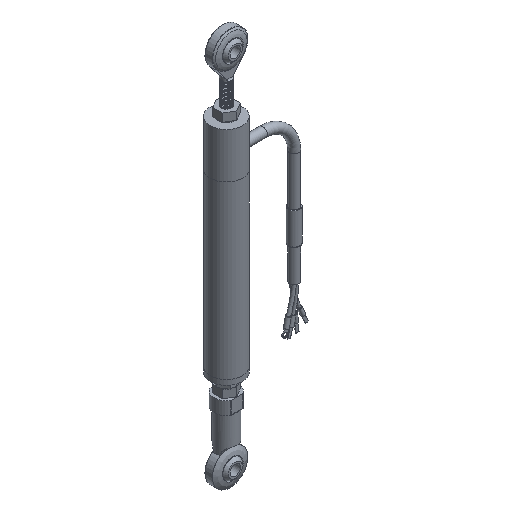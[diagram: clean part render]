
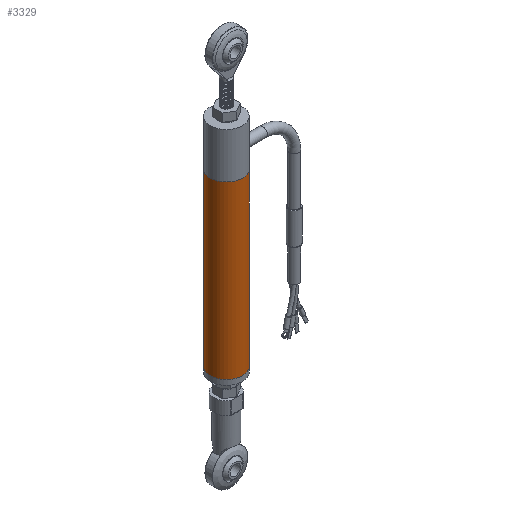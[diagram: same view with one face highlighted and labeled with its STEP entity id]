
A CAD part, isometric view. The second image highlights one B-rep face of the part: STEP entity #3329.
In plain terms, the highlighted cylindrical face has radius 6.35 mm (diameter 12.7 mm), a full revolution.
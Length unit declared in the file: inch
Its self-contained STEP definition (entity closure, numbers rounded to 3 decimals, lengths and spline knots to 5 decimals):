
#248=LINE('',#8165,#453);
#453=VECTOR('',#4234,0.25);
#633=CYLINDRICAL_SURFACE('',#3719,0.25);
#744=FACE_OUTER_BOUND('',#956,.T.);
#956=EDGE_LOOP('',(#2470,#2471,#2472,#2473,#2474));
#1140=CIRCLE('',#3711,0.25);
#1142=CIRCLE('',#3717,0.25);
#1143=CIRCLE('',#3718,0.25);
#1463=VERTEX_POINT('',#8108);
#1468=VERTEX_POINT('',#8159);
#1469=VERTEX_POINT('',#8161);
#1826=EDGE_CURVE('',#1463,#1463,#1140,.T.);
#1833=EDGE_CURVE('',#1469,#1468,#1142,.T.);
#1834=EDGE_CURVE('',#1468,#1469,#1143,.T.);
#1835=EDGE_CURVE('',#1463,#1469,#248,.T.);
#2470=ORIENTED_EDGE('',*,*,#1826,.F.);
#2471=ORIENTED_EDGE('',*,*,#1835,.T.);
#2472=ORIENTED_EDGE('',*,*,#1833,.T.);
#2473=ORIENTED_EDGE('',*,*,#1834,.T.);
#2474=ORIENTED_EDGE('',*,*,#1835,.F.);
#3329=ADVANCED_FACE('',(#744),#633,.T.);
#3711=AXIS2_PLACEMENT_3D('',#8110,#4214,#4215);
#3717=AXIS2_PLACEMENT_3D('',#8162,#4228,#4229);
#3718=AXIS2_PLACEMENT_3D('',#8163,#4230,#4231);
#3719=AXIS2_PLACEMENT_3D('',#8164,#4232,#4233);
#4214=DIRECTION('center_axis',(0.,0.,-1.));
#4215=DIRECTION('ref_axis',(-1.,0.,0.));
#4228=DIRECTION('center_axis',(0.,0.,-1.));
#4229=DIRECTION('ref_axis',(-1.,0.,0.));
#4230=DIRECTION('center_axis',(0.,0.,-1.));
#4231=DIRECTION('ref_axis',(-1.,0.,0.));
#4232=DIRECTION('center_axis',(0.,0.,-1.));
#4233=DIRECTION('ref_axis',(-1.,0.,0.));
#4234=DIRECTION('',(0.,0.,1.));
#8108=CARTESIAN_POINT('',(0.25,0.,-3.33858));
#8110=CARTESIAN_POINT('Origin',(0.,0.,-3.33858));
#8159=CARTESIAN_POINT('',(-0.25,0.,-0.7));
#8161=CARTESIAN_POINT('',(0.25,0.,-0.7));
#8162=CARTESIAN_POINT('Origin',(0.,0.,-0.7));
#8163=CARTESIAN_POINT('Origin',(0.,0.,-0.7));
#8164=CARTESIAN_POINT('Origin',(0.,0.,0.));
#8165=CARTESIAN_POINT('',(0.25,0.,0.));
